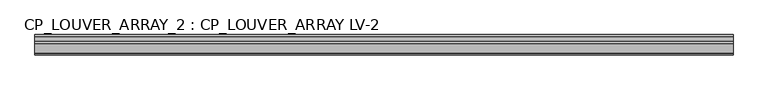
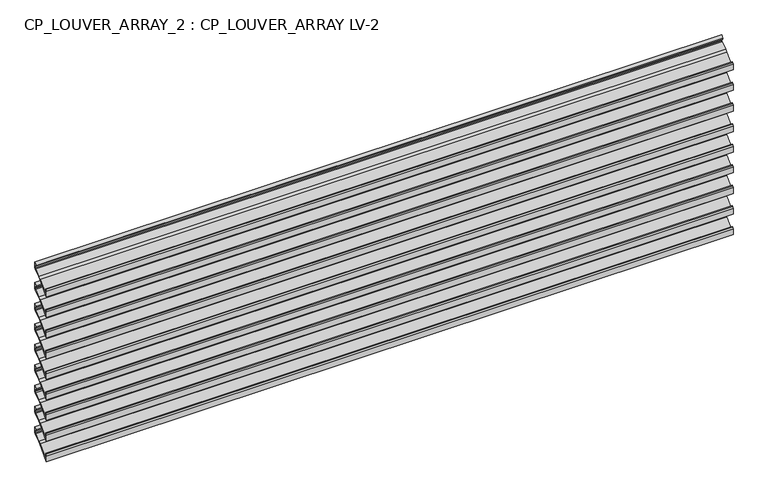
"""IFC4 building model written with IfcOpenShell, lengths in millimetres: plate geometry, CP_LOUVER_ARRAY_2 : CP_LOUVER_ARRAY LV-2."""

from ifc_helpers import new_model, si_unit, origin, place, context, project, spatial, faceted_brep, source, transform, mapped, element, save


def cp_louver_array_2_cp_louver_array_lv_2_13bff3e6(model_context):
    return source(origin(), model_context, "Body", "Brep", [
        faceted_brep([(800.5016712, 96.3393096, 447.5165033), (800.5016712, 100.8480853, 450.4559523), (800.5016712, 114.5049525, 460.1131944), (800.5016712, 116.1796, 463.3484382), (800.5016712, 116.1796, 477.1723955), (800.5016712, 111.4806, 472.1333349), (800.5016712, 111.4806, 469.8987254), (800.5016712, 114.6556, 473.3034961), (800.5016712, 114.6556, 463.3484382), (800.5016712, 113.6250477, 461.357519), (800.5016712, 99.9681804, 451.7002768), (800.5016712, 94.5749864, 447.8480819), (800.5016712, 71.3542993, 422.9975045), (800.5016712, 71.374, 432.9818805), (800.5016712, 73.025, 435.4301063), (800.5016712, 73.025, 437.3225348), (800.5016712, 71.4632993, 436.1728583), (800.5016712, 69.85, 432.9818805), (800.5016712, 69.85, 419.1101965), (-800.5016712, 96.3393096, 447.5165033), (-800.5016712, 69.85, 419.1101965), (-800.5016712, 69.85, 432.9818805), (-800.5016712, 71.4632993, 436.1728583), (-800.5016712, 73.025, 437.3225348), (-800.5016712, 73.025, 435.4301063), (-800.5016712, 71.374, 432.9818805), (-800.5016712, 71.374, 422.9790959), (-800.5016712, 94.5749864, 447.8480819), (-800.5016712, 99.9681804, 451.7002768), (-800.5016712, 113.6250477, 461.357519), (-800.5016712, 114.6556, 463.3484382), (-800.5016712, 114.6556, 473.3034961), (-800.5016712, 111.4806, 469.8987254), (-800.5016712, 111.4806, 472.1333349), (-800.5016712, 116.1796, 477.1723955), (-800.5016712, 116.1796, 463.3484382), (-800.5016712, 114.5049525, 460.1131944), (-800.5016712, 100.8480853, 450.4559523)], [[[0, 1, 2, 3, 4, 5, 6, 7, 8, 9, 10, 11, 12, 13, 14, 15, 16, 17, 18]], [[19, 20, 21, 22, 23, 24, 25, 26, 27, 28, 29, 30, 31, 32, 33, 34, 35, 36, 37]], [[18, 20, 19, 0]], [[17, 21, 20, 18]], [[16, 22, 21, 17]], [[15, 23, 22, 16]], [[14, 24, 23, 15]], [[13, 25, 24, 14]], [[12, 26, 25, 13]], [[12, 11, 27, 26]], [[10, 28, 27, 11]], [[9, 29, 28, 10]], [[8, 30, 29, 9]], [[7, 31, 30, 8]], [[6, 32, 31, 7]], [[5, 33, 32, 6]], [[4, 34, 33, 5]], [[3, 35, 34, 4]], [[2, 36, 35, 3]], [[1, 37, 36, 2]], [[0, 19, 37, 1]]]),
        faceted_brep([(800.5016712, 96.3393096, 396.7152288), (800.5016712, 100.8480853, 399.6546777), (800.5016712, 114.5049525, 409.3119199), (800.5016712, 116.1796, 412.5471636), (800.5016712, 116.1796, 426.3711209), (800.5016712, 111.4806, 421.3320603), (800.5016712, 111.4806, 419.0974509), (800.5016712, 114.6556, 422.5022215), (800.5016712, 114.6556, 412.5471636), (800.5016712, 113.6250477, 410.5562444), (800.5016712, 99.9681804, 400.8990022), (800.5016712, 94.5749864, 397.0468074), (800.5016712, 71.3542993, 372.1962299), (800.5016712, 71.374, 382.1806059), (800.5016712, 73.025, 384.6288317), (800.5016712, 73.025, 386.5212603), (800.5016712, 71.4632993, 385.3715838), (800.5016712, 69.85, 382.1806059), (800.5016712, 69.85, 368.308922), (-800.5016712, 96.3393096, 396.7152288), (-800.5016712, 69.85, 368.308922), (-800.5016712, 69.85, 382.1806059), (-800.5016712, 71.4632993, 385.3715838), (-800.5016712, 73.025, 386.5212603), (-800.5016712, 73.025, 384.6288317), (-800.5016712, 71.374, 382.1806059), (-800.5016712, 71.374, 372.1778214), (-800.5016712, 94.5749864, 397.0468074), (-800.5016712, 99.9681804, 400.8990022), (-800.5016712, 113.6250477, 410.5562444), (-800.5016712, 114.6556, 412.5471636), (-800.5016712, 114.6556, 422.5022215), (-800.5016712, 111.4806, 419.0974509), (-800.5016712, 111.4806, 421.3320603), (-800.5016712, 116.1796, 426.3711209), (-800.5016712, 116.1796, 412.5471636), (-800.5016712, 114.5049525, 409.3119199), (-800.5016712, 100.8480853, 399.6546777)], [[[0, 1, 2, 3, 4, 5, 6, 7, 8, 9, 10, 11, 12, 13, 14, 15, 16, 17, 18]], [[19, 20, 21, 22, 23, 24, 25, 26, 27, 28, 29, 30, 31, 32, 33, 34, 35, 36, 37]], [[18, 20, 19, 0]], [[17, 21, 20, 18]], [[16, 22, 21, 17]], [[15, 23, 22, 16]], [[14, 24, 23, 15]], [[13, 25, 24, 14]], [[12, 26, 25, 13]], [[12, 11, 27, 26]], [[10, 28, 27, 11]], [[9, 29, 28, 10]], [[8, 30, 29, 9]], [[7, 31, 30, 8]], [[6, 32, 31, 7]], [[5, 33, 32, 6]], [[4, 34, 33, 5]], [[3, 35, 34, 4]], [[2, 36, 35, 3]], [[1, 37, 36, 2]], [[0, 19, 37, 1]]]),
        faceted_brep([(800.5016712, 96.3393096, 345.9139542), (800.5016712, 100.8480853, 348.8534031), (800.5016712, 114.5049525, 358.5106453), (800.5016712, 116.1796, 361.7458891), (800.5016712, 116.1796, 375.5698463), (800.5016712, 111.4806, 370.5307858), (800.5016712, 111.4806, 368.2961763), (800.5016712, 114.6556, 371.7009469), (800.5016712, 114.6556, 361.7458891), (800.5016712, 113.6250477, 359.7549698), (800.5016712, 99.9681804, 350.0977276), (800.5016712, 94.5749864, 346.2455328), (800.5016712, 71.3542993, 321.3949553), (800.5016712, 71.374, 331.3793314), (800.5016712, 73.025, 333.8275571), (800.5016712, 73.025, 335.7199857), (800.5016712, 71.4632993, 334.5703092), (800.5016712, 69.85, 331.3793314), (800.5016712, 69.85, 317.5076474), (-800.5016712, 96.3393096, 345.9139542), (-800.5016712, 69.85, 317.5076474), (-800.5016712, 69.85, 331.3793314), (-800.5016712, 71.4632993, 334.5703092), (-800.5016712, 73.025, 335.7199857), (-800.5016712, 73.025, 333.8275571), (-800.5016712, 71.374, 331.3793314), (-800.5016712, 71.374, 321.3765468), (-800.5016712, 94.5749864, 346.2455328), (-800.5016712, 99.9681804, 350.0977276), (-800.5016712, 113.6250477, 359.7549698), (-800.5016712, 114.6556, 361.7458891), (-800.5016712, 114.6556, 371.7009469), (-800.5016712, 111.4806, 368.2961763), (-800.5016712, 111.4806, 370.5307858), (-800.5016712, 116.1796, 375.5698463), (-800.5016712, 116.1796, 361.7458891), (-800.5016712, 114.5049525, 358.5106453), (-800.5016712, 100.8480853, 348.8534031)], [[[0, 1, 2, 3, 4, 5, 6, 7, 8, 9, 10, 11, 12, 13, 14, 15, 16, 17, 18]], [[19, 20, 21, 22, 23, 24, 25, 26, 27, 28, 29, 30, 31, 32, 33, 34, 35, 36, 37]], [[18, 20, 19, 0]], [[17, 21, 20, 18]], [[16, 22, 21, 17]], [[15, 23, 22, 16]], [[14, 24, 23, 15]], [[13, 25, 24, 14]], [[12, 26, 25, 13]], [[12, 11, 27, 26]], [[10, 28, 27, 11]], [[9, 29, 28, 10]], [[8, 30, 29, 9]], [[7, 31, 30, 8]], [[6, 32, 31, 7]], [[5, 33, 32, 6]], [[4, 34, 33, 5]], [[3, 35, 34, 4]], [[2, 36, 35, 3]], [[1, 37, 36, 2]], [[0, 19, 37, 1]]]),
        faceted_brep([(800.5016712, 96.3393096, 295.1126796), (800.5016712, 100.8480853, 298.0521286), (800.5016712, 114.5049525, 307.7093707), (800.5016712, 116.1796, 310.9446145), (800.5016712, 116.1796, 324.7685718), (800.5016712, 111.4806, 319.7295112), (800.5016712, 111.4806, 317.4949017), (800.5016712, 114.6556, 320.8996724), (800.5016712, 114.6556, 310.9446145), (800.5016712, 113.6250477, 308.9536953), (800.5016712, 99.9681804, 299.2964531), (800.5016712, 94.5749864, 295.4442582), (800.5016712, 71.3542993, 270.5936808), (800.5016712, 71.374, 280.5780568), (800.5016712, 73.025, 283.0262826), (800.5016712, 73.025, 284.9187111), (800.5016712, 71.4632993, 283.7690346), (800.5016712, 69.85, 280.5780568), (800.5016712, 69.85, 266.7063728), (-800.5016712, 96.3393096, 295.1126796), (-800.5016712, 69.85, 266.7063728), (-800.5016712, 69.85, 280.5780568), (-800.5016712, 71.4632993, 283.7690346), (-800.5016712, 73.025, 284.9187111), (-800.5016712, 73.025, 283.0262826), (-800.5016712, 71.374, 280.5780568), (-800.5016712, 71.374, 270.5752722), (-800.5016712, 94.5749864, 295.4442582), (-800.5016712, 99.9681804, 299.2964531), (-800.5016712, 113.6250477, 308.9536953), (-800.5016712, 114.6556, 310.9446145), (-800.5016712, 114.6556, 320.8996724), (-800.5016712, 111.4806, 317.4949017), (-800.5016712, 111.4806, 319.7295112), (-800.5016712, 116.1796, 324.7685718), (-800.5016712, 116.1796, 310.9446145), (-800.5016712, 114.5049525, 307.7093707), (-800.5016712, 100.8480853, 298.0521286)], [[[0, 1, 2, 3, 4, 5, 6, 7, 8, 9, 10, 11, 12, 13, 14, 15, 16, 17, 18]], [[19, 20, 21, 22, 23, 24, 25, 26, 27, 28, 29, 30, 31, 32, 33, 34, 35, 36, 37]], [[18, 20, 19, 0]], [[17, 21, 20, 18]], [[16, 22, 21, 17]], [[15, 23, 22, 16]], [[14, 24, 23, 15]], [[13, 25, 24, 14]], [[12, 26, 25, 13]], [[12, 11, 27, 26]], [[10, 28, 27, 11]], [[9, 29, 28, 10]], [[8, 30, 29, 9]], [[7, 31, 30, 8]], [[6, 32, 31, 7]], [[5, 33, 32, 6]], [[4, 34, 33, 5]], [[3, 35, 34, 4]], [[2, 36, 35, 3]], [[1, 37, 36, 2]], [[0, 19, 37, 1]]]),
        faceted_brep([(800.5016712, 96.3393096, 244.3114051), (800.5016712, 100.8480853, 247.250854), (800.5016712, 114.5049525, 256.9080962), (800.5016712, 116.1796, 260.1433399), (800.5016712, 116.1796, 273.9672972), (800.5016712, 111.4806, 268.9282366), (800.5016712, 111.4806, 266.6936272), (800.5016712, 114.6556, 270.0983978), (800.5016712, 114.6556, 260.1433399), (800.5016712, 113.6250477, 258.1524207), (800.5016712, 99.9681804, 248.4951785), (800.5016712, 94.5749864, 244.6429837), (800.5016712, 71.3542993, 219.7924062), (800.5016712, 71.374, 229.7767822), (800.5016712, 73.025, 232.225008), (800.5016712, 73.025, 234.1174365), (800.5016712, 71.4632993, 232.9677601), (800.5016712, 69.85, 229.7767822), (800.5016712, 69.85, 215.9050983), (-800.5016712, 96.3393096, 244.3114051), (-800.5016712, 69.85, 215.9050983), (-800.5016712, 69.85, 229.7767822), (-800.5016712, 71.4632993, 232.9677601), (-800.5016712, 73.025, 234.1174365), (-800.5016712, 73.025, 232.225008), (-800.5016712, 71.374, 229.7767822), (-800.5016712, 71.374, 219.7739977), (-800.5016712, 94.5749864, 244.6429837), (-800.5016712, 99.9681804, 248.4951785), (-800.5016712, 113.6250477, 258.1524207), (-800.5016712, 114.6556, 260.1433399), (-800.5016712, 114.6556, 270.0983978), (-800.5016712, 111.4806, 266.6936272), (-800.5016712, 111.4806, 268.9282366), (-800.5016712, 116.1796, 273.9672972), (-800.5016712, 116.1796, 260.1433399), (-800.5016712, 114.5049525, 256.9080962), (-800.5016712, 100.8480853, 247.250854)], [[[0, 1, 2, 3, 4, 5, 6, 7, 8, 9, 10, 11, 12, 13, 14, 15, 16, 17, 18]], [[19, 20, 21, 22, 23, 24, 25, 26, 27, 28, 29, 30, 31, 32, 33, 34, 35, 36, 37]], [[18, 20, 19, 0]], [[17, 21, 20, 18]], [[16, 22, 21, 17]], [[15, 23, 22, 16]], [[14, 24, 23, 15]], [[13, 25, 24, 14]], [[12, 26, 25, 13]], [[12, 11, 27, 26]], [[10, 28, 27, 11]], [[9, 29, 28, 10]], [[8, 30, 29, 9]], [[7, 31, 30, 8]], [[6, 32, 31, 7]], [[5, 33, 32, 6]], [[4, 34, 33, 5]], [[3, 35, 34, 4]], [[2, 36, 35, 3]], [[1, 37, 36, 2]], [[0, 19, 37, 1]]]),
        faceted_brep([(800.5016712, 96.3393096, 193.5101305), (800.5016712, 100.8480853, 196.4495794), (800.5016712, 114.5049525, 206.1068216), (800.5016712, 116.1796, 209.3420654), (800.5016712, 116.1796, 223.1660226), (800.5016712, 111.4806, 218.1269621), (800.5016712, 111.4806, 215.8923526), (800.5016712, 114.6556, 219.2971232), (800.5016712, 114.6556, 209.3420654), (800.5016712, 113.6250477, 207.3511461), (800.5016712, 99.9681804, 197.6939039), (800.5016712, 94.5749864, 193.8417091), (800.5016712, 71.3542993, 168.9911316), (800.5016712, 71.374, 178.9755076), (800.5016712, 73.025, 181.4237334), (800.5016712, 73.025, 183.316162), (800.5016712, 71.4632993, 182.1664855), (800.5016712, 69.85, 178.9755076), (800.5016712, 69.85, 165.1038237), (-800.5016712, 96.3393096, 193.5101305), (-800.5016712, 69.85, 165.1038237), (-800.5016712, 69.85, 178.9755076), (-800.5016712, 71.4632993, 182.1664855), (-800.5016712, 73.025, 183.316162), (-800.5016712, 73.025, 181.4237334), (-800.5016712, 71.374, 178.9755076), (-800.5016712, 71.374, 168.9727231), (-800.5016712, 94.5749864, 193.8417091), (-800.5016712, 99.9681804, 197.6939039), (-800.5016712, 113.6250477, 207.3511461), (-800.5016712, 114.6556, 209.3420654), (-800.5016712, 114.6556, 219.2971232), (-800.5016712, 111.4806, 215.8923526), (-800.5016712, 111.4806, 218.1269621), (-800.5016712, 116.1796, 223.1660226), (-800.5016712, 116.1796, 209.3420654), (-800.5016712, 114.5049525, 206.1068216), (-800.5016712, 100.8480853, 196.4495794)], [[[0, 1, 2, 3, 4, 5, 6, 7, 8, 9, 10, 11, 12, 13, 14, 15, 16, 17, 18]], [[19, 20, 21, 22, 23, 24, 25, 26, 27, 28, 29, 30, 31, 32, 33, 34, 35, 36, 37]], [[18, 20, 19, 0]], [[17, 21, 20, 18]], [[16, 22, 21, 17]], [[15, 23, 22, 16]], [[14, 24, 23, 15]], [[13, 25, 24, 14]], [[12, 26, 25, 13]], [[12, 11, 27, 26]], [[10, 28, 27, 11]], [[9, 29, 28, 10]], [[8, 30, 29, 9]], [[7, 31, 30, 8]], [[6, 32, 31, 7]], [[5, 33, 32, 6]], [[4, 34, 33, 5]], [[3, 35, 34, 4]], [[2, 36, 35, 3]], [[1, 37, 36, 2]], [[0, 19, 37, 1]]]),
        faceted_brep([(800.5016712, 96.3393096, 142.7088559), (800.5016712, 100.8480853, 145.6483048), (800.5016712, 114.5049525, 155.305547), (800.5016712, 116.1796, 158.5407908), (800.5016712, 116.1796, 172.3647481), (800.5016712, 111.4806, 167.3256875), (800.5016712, 111.4806, 165.091078), (800.5016712, 114.6556, 168.4958487), (800.5016712, 114.6556, 158.5407908), (800.5016712, 113.6250477, 156.5498716), (800.5016712, 99.9681804, 146.8926294), (800.5016712, 94.5749864, 143.0404345), (800.5016712, 71.3542993, 118.1898571), (800.5016712, 71.374, 128.1742331), (800.5016712, 73.025, 130.6224589), (800.5016712, 73.025, 132.5148874), (800.5016712, 71.4632993, 131.3652109), (800.5016712, 69.85, 128.1742331), (800.5016712, 69.85, 114.3025491), (-800.5016712, 96.3393096, 142.7088559), (-800.5016712, 69.85, 114.3025491), (-800.5016712, 69.85, 128.1742331), (-800.5016712, 71.4632993, 131.3652109), (-800.5016712, 73.025, 132.5148874), (-800.5016712, 73.025, 130.6224589), (-800.5016712, 71.374, 128.1742331), (-800.5016712, 71.374, 118.1714485), (-800.5016712, 94.5749864, 143.0404345), (-800.5016712, 99.9681804, 146.8926294), (-800.5016712, 113.6250477, 156.5498716), (-800.5016712, 114.6556, 158.5407908), (-800.5016712, 114.6556, 168.4958487), (-800.5016712, 111.4806, 165.091078), (-800.5016712, 111.4806, 167.3256875), (-800.5016712, 116.1796, 172.3647481), (-800.5016712, 116.1796, 158.5407908), (-800.5016712, 114.5049525, 155.305547), (-800.5016712, 100.8480853, 145.6483048)], [[[0, 1, 2, 3, 4, 5, 6, 7, 8, 9, 10, 11, 12, 13, 14, 15, 16, 17, 18]], [[19, 20, 21, 22, 23, 24, 25, 26, 27, 28, 29, 30, 31, 32, 33, 34, 35, 36, 37]], [[18, 20, 19, 0]], [[17, 21, 20, 18]], [[16, 22, 21, 17]], [[15, 23, 22, 16]], [[14, 24, 23, 15]], [[13, 25, 24, 14]], [[12, 26, 25, 13]], [[12, 11, 27, 26]], [[10, 28, 27, 11]], [[9, 29, 28, 10]], [[8, 30, 29, 9]], [[7, 31, 30, 8]], [[6, 32, 31, 7]], [[5, 33, 32, 6]], [[4, 34, 33, 5]], [[3, 35, 34, 4]], [[2, 36, 35, 3]], [[1, 37, 36, 2]], [[0, 19, 37, 1]]]),
        faceted_brep([(800.5016712, 96.3393096, 91.9075814), (800.5016712, 100.8480853, 94.8470303), (800.5016712, 114.5049525, 104.5042725), (800.5016712, 116.1796, 107.7395162), (800.5016712, 116.1796, 121.5634735), (800.5016712, 111.4806, 116.5244129), (800.5016712, 111.4806, 114.2898035), (800.5016712, 114.6556, 117.6945741), (800.5016712, 114.6556, 107.7395162), (800.5016712, 113.6250477, 105.748597), (800.5016712, 99.9681804, 96.0913548), (800.5016712, 94.5749864, 92.23916), (800.5016712, 71.3542993, 67.3885825), (800.5016712, 71.374, 77.3729585), (800.5016712, 73.025, 79.8211843), (800.5016712, 73.025, 81.7136128), (800.5016712, 71.4632993, 80.5639364), (800.5016712, 69.85, 77.3729585), (800.5016712, 69.85, 63.5012746), (-800.5016712, 96.3393096, 91.9075814), (-800.5016712, 69.85, 63.5012746), (-800.5016712, 69.85, 77.3729585), (-800.5016712, 71.4632993, 80.5639364), (-800.5016712, 73.025, 81.7136128), (-800.5016712, 73.025, 79.8211843), (-800.5016712, 71.374, 77.3729585), (-800.5016712, 71.374, 67.370174), (-800.5016712, 94.5749864, 92.23916), (-800.5016712, 99.9681804, 96.0913548), (-800.5016712, 113.6250477, 105.748597), (-800.5016712, 114.6556, 107.7395162), (-800.5016712, 114.6556, 117.6945741), (-800.5016712, 111.4806, 114.2898035), (-800.5016712, 111.4806, 116.5244129), (-800.5016712, 116.1796, 121.5634735), (-800.5016712, 116.1796, 107.7395162), (-800.5016712, 114.5049525, 104.5042725), (-800.5016712, 100.8480853, 94.8470303)], [[[0, 1, 2, 3, 4, 5, 6, 7, 8, 9, 10, 11, 12, 13, 14, 15, 16, 17, 18]], [[19, 20, 21, 22, 23, 24, 25, 26, 27, 28, 29, 30, 31, 32, 33, 34, 35, 36, 37]], [[18, 20, 19, 0]], [[17, 21, 20, 18]], [[16, 22, 21, 17]], [[15, 23, 22, 16]], [[14, 24, 23, 15]], [[13, 25, 24, 14]], [[12, 26, 25, 13]], [[12, 11, 27, 26]], [[10, 28, 27, 11]], [[9, 29, 28, 10]], [[8, 30, 29, 9]], [[7, 31, 30, 8]], [[6, 32, 31, 7]], [[5, 33, 32, 6]], [[4, 34, 33, 5]], [[3, 35, 34, 4]], [[2, 36, 35, 3]], [[1, 37, 36, 2]], [[0, 19, 37, 1]]]),
        faceted_brep([(800.5016712, 96.3393096, 41.1063068), (800.5016712, 100.8480853, 44.0457557), (800.5016712, 114.5049525, 53.7029979), (800.5016712, 116.1796, 56.9382417), (800.5016712, 116.1796, 70.7621989), (800.5016712, 111.4806, 65.7231384), (800.5016712, 111.4806, 63.4885289), (800.5016712, 114.6556, 66.8932995), (800.5016712, 114.6556, 56.9382417), (800.5016712, 113.6250477, 54.9473224), (800.5016712, 99.9681804, 45.2900802), (800.5016712, 94.5749864, 41.4378854), (800.5016712, 71.3542993, 16.5873079), (800.5016712, 71.374, 26.5716839), (800.5016712, 73.025, 29.0199097), (800.5016712, 73.025, 30.9123383), (800.5016712, 71.4632993, 29.7626618), (800.5016712, 69.85, 26.5716839), (800.5016712, 69.85, 12.7), (-800.5016712, 96.3393096, 41.1063068), (-800.5016712, 69.85, 12.7), (-800.5016712, 69.85, 26.5716839), (-800.5016712, 71.4632993, 29.7626618), (-800.5016712, 73.025, 30.9123383), (-800.5016712, 73.025, 29.0199097), (-800.5016712, 71.374, 26.5716839), (-800.5016712, 71.374, 16.5688994), (-800.5016712, 94.5749864, 41.4378854), (-800.5016712, 99.9681804, 45.2900802), (-800.5016712, 113.6250477, 54.9473224), (-800.5016712, 114.6556, 56.9382417), (-800.5016712, 114.6556, 66.8932995), (-800.5016712, 111.4806, 63.4885289), (-800.5016712, 111.4806, 65.7231384), (-800.5016712, 116.1796, 70.7621989), (-800.5016712, 116.1796, 56.9382417), (-800.5016712, 114.5049525, 53.7029979), (-800.5016712, 100.8480853, 44.0457557)], [[[0, 1, 2, 3, 4, 5, 6, 7, 8, 9, 10, 11, 12, 13, 14, 15, 16, 17, 18]], [[19, 20, 21, 22, 23, 24, 25, 26, 27, 28, 29, 30, 31, 32, 33, 34, 35, 36, 37]], [[18, 20, 19, 0]], [[17, 21, 20, 18]], [[16, 22, 21, 17]], [[15, 23, 22, 16]], [[14, 24, 23, 15]], [[13, 25, 24, 14]], [[12, 26, 25, 13]], [[12, 11, 27, 26]], [[10, 28, 27, 11]], [[9, 29, 28, 10]], [[8, 30, 29, 9]], [[7, 31, 30, 8]], [[6, 32, 31, 7]], [[5, 33, 32, 6]], [[4, 34, 33, 5]], [[3, 35, 34, 4]], [[2, 36, 35, 3]], [[1, 37, 36, 2]], [[0, 19, 37, 1]]]),
    ])


if __name__ == "__main__":
    model = new_model("IFC4")
    model_context = context("Model", 3, world=origin())
    ifc_project = project(units=[si_unit("LENGTHUNIT", "METRE", prefix="MILLI")], contexts=[model_context])
    site = spatial("IfcSite", under=ifc_project)
    building = spatial("IfcBuilding", under=site)
    placement = place(None, origin())
    cp_louver_array_2_cp_louver_array_lv_2_shape = cp_louver_array_2_cp_louver_array_lv_2_13bff3e6(model_context)
    element("IfcPlate", 1, ObjectType="CP_LOUVER_ARRAY_2 : CP_LOUVER_ARRAY LV-2", at=placement, inside=building, context=model_context, shape_type="MappedRepresentation", body=[
        mapped(cp_louver_array_2_cp_louver_array_lv_2_shape, transform((0.0, 0.0, 0.0), x_axis=(1.0, 0.0, 0.0), y_axis=(0.0, 1.0, 0.0), z_axis=(0.0, 0.0, 1.0))),
    ])
    save(model, "model.ifc")
